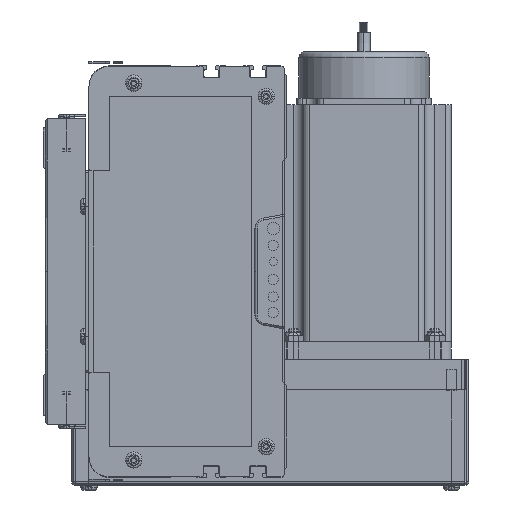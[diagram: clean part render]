
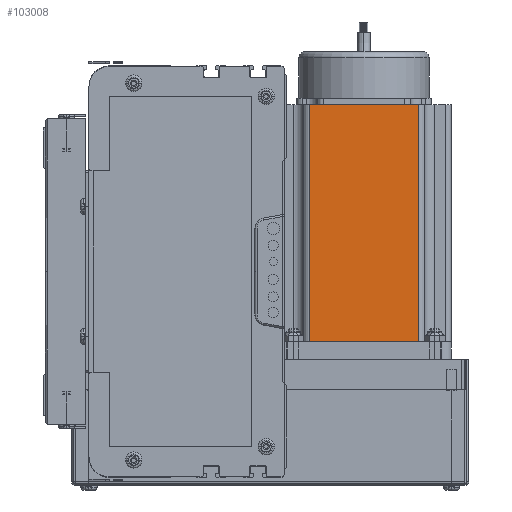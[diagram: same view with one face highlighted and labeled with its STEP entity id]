
A CAD part, left-side view. The second image highlights one B-rep face of the part: STEP entity #103008.
In plain terms, the highlighted planar face has unit normal (-1, 0, 0) as drawn and (0, -1, 0) by its records, which use the part's own axes.
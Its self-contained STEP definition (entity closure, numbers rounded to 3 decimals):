
#20180 = PLANE ( 'NONE',  #20182 ) ;
#20182 = AXIS2_PLACEMENT_3D ( 'NONE', #20363, #20187, #20485 ) ;
#20187 = DIRECTION ( 'NONE',  ( 0., 1., 0. ) ) ;
#20189 = FACE_OUTER_BOUND ( 'NONE', #102915, .T. ) ;
#20363 = CARTESIAN_POINT ( 'NONE',  ( 0., 0., 116.5 ) ) ;
#20485 = DIRECTION ( 'NONE',  ( 0., 0., 1. ) ) ;
#20494 = DIRECTION ( 'NONE',  ( 0., 0., 1. ) ) ;
#20496 = VECTOR ( 'NONE', #20494, 1000. ) ;
#20514 = CARTESIAN_POINT ( 'NONE',  ( 69.74, 0., 116.5 ) ) ;
#20558 = LINE ( 'NONE', #20514, #20496 ) ;
#20856 = DIRECTION ( 'NONE',  ( 0., 0., -1. ) ) ;
#20857 = VECTOR ( 'NONE', #20856, 1000. ) ;
#20859 = CARTESIAN_POINT ( 'NONE',  ( 16.16, 0., 116.5 ) ) ;
#20861 = LINE ( 'NONE', #20859, #20857 ) ;
#20948 = CARTESIAN_POINT ( 'NONE',  ( 69.74, 0., 116.5 ) ) ;
#21011 = DIRECTION ( 'NONE',  ( 1., 0., 0. ) ) ;
#21012 = VECTOR ( 'NONE', #21011, 1000. ) ;
#21014 = CARTESIAN_POINT ( 'NONE',  ( 0., 0., 116.5 ) ) ;
#21016 = LINE ( 'NONE', #21014, #21012 ) ;
#23458 = CARTESIAN_POINT ( 'NONE',  ( 16.16, 0., 116.5 ) ) ;
#36504 = CARTESIAN_POINT ( 'NONE',  ( 16.16, 0., 0. ) ) ;
#36577 = DIRECTION ( 'NONE',  ( 1., 0., 0. ) ) ;
#36578 = VECTOR ( 'NONE', #36577, 1000. ) ;
#36579 = CARTESIAN_POINT ( 'NONE',  ( 0., 0., 0. ) ) ;
#36586 = LINE ( 'NONE', #36579, #36578 ) ;
#36627 = CARTESIAN_POINT ( 'NONE',  ( 69.74, 0., 0. ) ) ;
#102704 = VERTEX_POINT ( 'NONE', #36504 ) ;
#102708 = ORIENTED_EDGE ( 'NONE', *, *, #103072, .T. ) ;
#102715 = EDGE_CURVE ( 'NONE', #102704, #102751, #36586, .T. ) ;
#102732 = ORIENTED_EDGE ( 'NONE', *, *, #103086, .F. ) ;
#102751 = VERTEX_POINT ( 'NONE', #36627 ) ;
#102796 = ORIENTED_EDGE ( 'NONE', *, *, #103097, .T. ) ;
#102833 = ORIENTED_EDGE ( 'NONE', *, *, #102715, .T. ) ;
#102915 = EDGE_LOOP ( 'NONE', ( #102833, #102796, #102732, #102708 ) ) ;
#103008 = ADVANCED_FACE ( 'NONE', ( #20189 ), #20180, .F. ) ;
#103072 = EDGE_CURVE ( 'NONE', #103191, #102704, #20861, .T. ) ;
#103080 = VERTEX_POINT ( 'NONE', #20948 ) ;
#103086 = EDGE_CURVE ( 'NONE', #103191, #103080, #21016, .T. ) ;
#103097 = EDGE_CURVE ( 'NONE', #102751, #103080, #20558, .T. ) ;
#103191 = VERTEX_POINT ( 'NONE', #23458 ) ;
